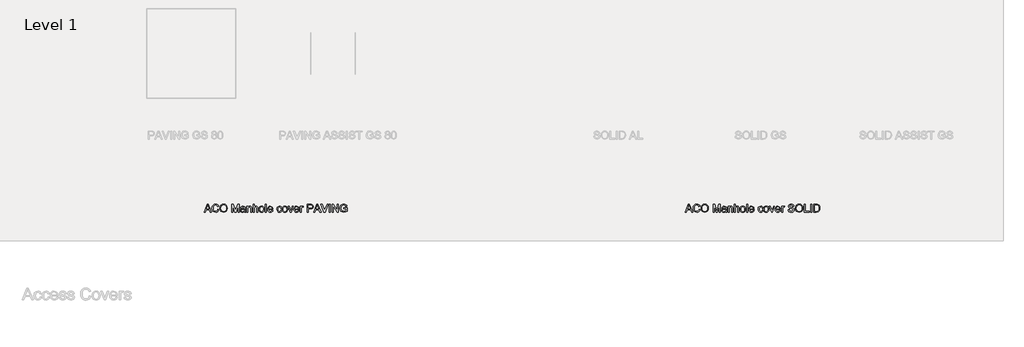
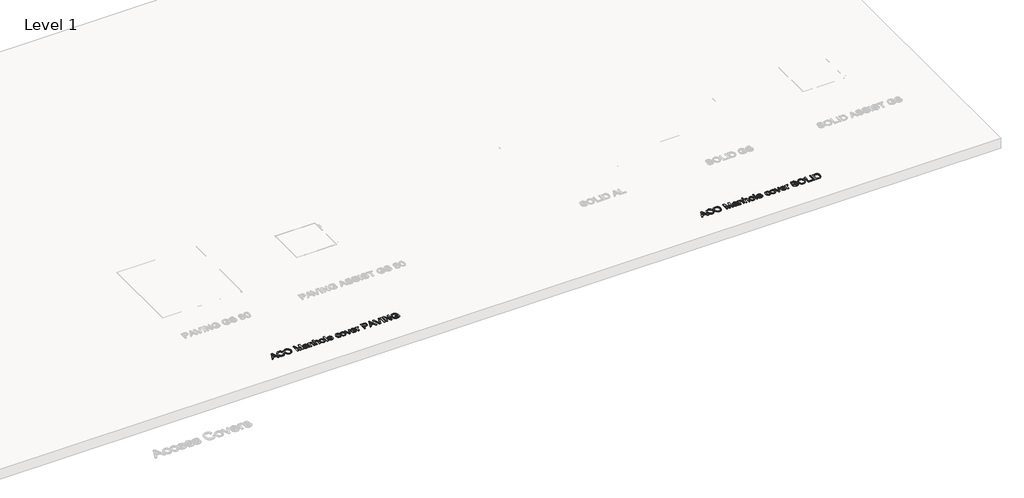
# One storey, part 2 of 9: 2 proxies.
"""IFC4 building model written with IfcOpenShell, lengths in millimetres."""

import ifcopenshell
import ifcopenshell.guid

model = None  # the IFC model being written
_history = None  # IfcOwnerHistory: only IFC2X3 demands one
_inside = {}  # id of a spatial element -> (the spatial element, [elements in it])
_under = {}  # id of a project, library or spatial element -> (it, [spatial elements below it])
_declared = {}  # id of a project -> (the project, [libraries it declares])
_typed = {}  # id of a type object -> (the type object, [elements of that type])
_made_of = {}  # id of a material, layer set ... -> (it, [elements and type objects made of it])


def new_model(schema):
    """Start an empty IFC model of exactly this schema.

    Asked for "IFC4X3", IfcOpenShell would pick the latest addendum, in which some entities
    have other attributes; the version numbers below select the first issue.
    IFC2X3 requires an IfcOwnerHistory on every rooted entity: one is made here for all.
    """
    global model, _history
    if schema == "IFC4X3":
        model = ifcopenshell.file(schema_version=(4, 3, 0, 0))
    else:
        model = ifcopenshell.file(schema=schema)
    _inside.clear()
    _under.clear()
    _declared.clear()
    _typed.clear()
    _made_of.clear()
    _history = None
    if model.schema == "IFC2X3":
        org = make("IfcOrganization", Name="unknown")
        user = make(
            "IfcPersonAndOrganization",
            ThePerson=make("IfcPerson", FamilyName="unknown"),
            TheOrganization=org,
        )
        app = make(
            "IfcApplication",
            ApplicationDeveloper=org,
            Version="unknown",
            ApplicationFullName="unknown",
            ApplicationIdentifier="unknown",
        )
        _history = make(
            "IfcOwnerHistory",
            OwningUser=user,
            OwningApplication=app,
            ChangeAction="ADDED",
            CreationDate=0,
        )
    return model


def make(cls, **values):
    """One entity of the class cls with the attributes given. An attribute that is None is left unset."""
    return model.create_entity(
        cls, **{name: value for name, value in values.items() if value is not None}
    )


def rooted(cls, **values):
    """An entity with a GlobalId (a new one), such as an element, a storey or a relation."""
    return make(cls, GlobalId=ifcopenshell.guid.new(), OwnerHistory=_history, **values)


def si_unit(unit_type, name, prefix=None):
    """IfcSIUnit, for example si_unit("LENGTHUNIT", "METRE", prefix="MILLI")."""
    return make("IfcSIUnit", UnitType=unit_type, Prefix=prefix, Name=name)


def assignment(units):
    """IfcUnitAssignment: the units of a project."""
    return None if units is None else make("IfcUnitAssignment", Units=units)


def point(xyz):
    """IfcCartesianPoint."""
    return None if xyz is None else make("IfcCartesianPoint", Coordinates=xyz)


def direction(xyz):
    """IfcDirection."""
    return None if xyz is None else make("IfcDirection", DirectionRatios=xyz)


def frame(location, z_axis=None, x_axis=None):
    """IfcAxis2Placement3D, a coordinate frame: its origin and axes. An axis left out is left unset."""
    return make(
        "IfcAxis2Placement3D",
        Location=point(location),
        Axis=direction(z_axis),
        RefDirection=direction(x_axis),
    )


def origin():
    """The frame at (0, 0, 0) with its axes left unset."""
    return frame((0.0, 0.0, 0.0))


def origin_with_axes():
    """The frame at (0, 0, 0) with the z axis (0, 0, 1) and the x axis (1, 0, 0) written out."""
    return frame((0.0, 0.0, 0.0), z_axis=(0.0, 0.0, 1.0), x_axis=(1.0, 0.0, 0.0))


def place(relative_to, where):
    """IfcLocalPlacement: puts the frame where relative to a parent placement (None: the world)."""
    return make(
        "IfcLocalPlacement", PlacementRelTo=relative_to, RelativePlacement=where
    )


def context(
    kind, dimensions, precision=None, world=None, true_north=None, identifier=None
):
    """IfcGeometricRepresentationContext, for example the 3D "Model" context."""
    return make(
        "IfcGeometricRepresentationContext",
        ContextIdentifier=identifier,
        ContextType=kind,
        CoordinateSpaceDimension=dimensions,
        Precision=precision,
        WorldCoordinateSystem=world,
        TrueNorth=true_north,
    )


def project(units=None, contexts=None):
    """IfcProject with its units and contexts."""
    return rooted(
        "IfcProject",
        Name="project",
        RepresentationContexts=contexts,
        UnitsInContext=assignment(units),
    )


def spatial(cls, under=None, at=None, **own):
    """A site, building, storey or space (cls), placed at a placement, below another one or the project."""
    s = rooted(cls, ObjectPlacement=at, **own)
    if under is not None:
        _under.setdefault(under.id(), (under, []))[1].append(s)
    return s


def polyline(points):
    """IfcPolyline through the points."""
    return make("IfcPolyline", Points=[point(p) for p in points])


def outline(outer, holes=None, kind="AREA"):
    """IfcArbitraryClosedProfileDef: a profile drawn as a closed curve; with holes, ...WithVoids."""
    if holes is None:
        return make("IfcArbitraryClosedProfileDef", ProfileType=kind, OuterCurve=outer)
    return make(
        "IfcArbitraryProfileDefWithVoids",
        ProfileType=kind,
        OuterCurve=outer,
        InnerCurves=holes,
    )


def extrude(swept, where, along, depth):
    """IfcExtrudedAreaSolid: the profile swept, set in the frame where, extruded along a direction by depth."""
    return make(
        "IfcExtrudedAreaSolid",
        SweptArea=swept,
        Position=where,
        ExtrudedDirection=direction(along),
        Depth=depth,
    )


def shape(context_of_items, identifier, shape_type, items):
    """IfcShapeRepresentation: the items that make up one representation, for example the "Body"."""
    return make(
        "IfcShapeRepresentation",
        ContextOfItems=context_of_items,
        RepresentationIdentifier=identifier,
        RepresentationType=shape_type,
        Items=items,
    )


def made_of(thing, what):
    """Note that an element or type object is made of a material, layer set ...; save() writes the relation."""
    if what is not None:
        _made_of.setdefault(what.id(), (what, []))[1].append(thing)
    return thing


def element(
    cls,
    number,
    at=None,
    inside=None,
    cuts=None,
    type_object=None,
    material=None,
    context=None,
    identifier="Body",
    shape_type=None,
    held_by="IfcProductDefinitionShape",
    body=None,
    shapes=None,
    **own,
):
    """One element of the class cls, such as IfcWall. Its Tag is "e" and its number.

    at: its placement. inside: the storey or other place that contains it. cuts: it is an
    opening in that element (IfcRelVoidsElement). A single representation is given by context,
    identifier, shape_type and body (its items); several are given by shapes. held_by: the class
    of the entity that holds the representations. save() writes the other relations.
    """
    e = rooted(cls, Tag="e%d" % number, ObjectPlacement=at, **own)
    if body is not None:
        shapes = [shape(context, identifier, shape_type, body)]
    if shapes is not None:
        e.Representation = make(held_by, Representations=shapes)
    if inside is not None:
        _inside.setdefault(inside.id(), (inside, []))[1].append(e)
    if cuts is not None:
        rooted(
            "IfcRelVoidsElement", RelatingBuildingElement=cuts, RelatedOpeningElement=e
        )
    if type_object is not None:
        _typed.setdefault(type_object.id(), (type_object, []))[1].append(e)
    return made_of(e, material)


def aggregate(whole, parts):
    """IfcRelAggregates: a whole, such as a stair, and the parts it consists of."""
    return rooted("IfcRelAggregates", RelatingObject=whole, RelatedObjects=parts)


def save(model, path):
    """Write the relations noted so far, then the file.

    IfcRelAggregates (storeys below a building ...), IfcRelContainedInSpatialStructure (elements
    in a storey), IfcRelDefinesByType, IfcRelAssociatesMaterial and IfcRelDeclares: one each for
    every whole, place, type object, material and project.
    """
    for whole, parts in _under.values():
        aggregate(whole, parts)
    for where, things in _inside.values():
        rooted(
            "IfcRelContainedInSpatialStructure",
            RelatedElements=things,
            RelatingStructure=where,
        )
    for kind, things in _typed.values():
        rooted("IfcRelDefinesByType", RelatedObjects=things, RelatingType=kind)
    for what, things in _made_of.values():
        rooted("IfcRelAssociatesMaterial", RelatedObjects=things, RelatingMaterial=what)
    for by, libraries in _declared.values():
        rooted("IfcRelDeclares", RelatingContext=by, RelatedDefinitions=libraries)
    model.write(path)


model = new_model("IFC4")

# Units and contexts
model_context = context("Model", 3, world=origin())
ifc_project = project(units=[si_unit("LENGTHUNIT", "METRE", prefix="MILLI")], contexts=[model_context])

# Site, building, storey
site = spatial("IfcSite", under=ifc_project)
building = spatial("IfcBuilding", under=site)
storey = spatial("IfcBuildingStorey", under=building, Name="Level 1", Elevation=0.0)

# Proxies
placement = place(None, origin())
element("IfcBuildingElementProxy", 1, Name="100mm ACO", ObjectType="100mm ACO", at=placement, inside=storey, context=model_context, shape_type="SweptSolid", body=[
    extrude(outline(polyline([(13654.5351282, -16737.8763634), (13640.6523737, -16737.8763634), (13628.6031906, -16708.0735529), (13585.9071721, -16708.0735529), (13574.3236578, -16737.8763634), (13560.4700077, -16737.8763634), (13599.5570921, -16637.2918781), (13613.8182026, -16637.2918781), (13654.5351282, -16737.8763634)]), holes=[polyline([(13624.0629187, -16696.897499), (13609.5544216, -16660.0223419), (13606.5712301, -16648.2933062), (13601.8854367, -16666.9782713), (13590.2728181, -16696.897499), (13624.0629187, -16696.897499)])]), origin_with_axes(), (0.0, 0.0, 1.0), 10.0),
    extrude(outline(polyline([(13749.0659176, -16705.8616256), (13743.1177249, -16720.7739449), (13733.9462301, -16731.3424465), (13722.089863, -16737.6398909), (13708.0870532, -16739.7390391), (13687.0591914, -16735.8608901), (13672.6380072, -16724.2264434), (13664.2996232, -16707.134939), (13661.5201619, -16686.8856174), (13664.7834823, -16665.3738964), (13674.5734436, -16649.0936746), (13689.4930391, -16638.8453205), (13708.1452619, -16635.4292024), (13721.5368812, -16637.2518597), (13732.8402664, -16642.7198314), (13741.5606444, -16651.7021481), (13747.203242, -16664.0678406), (13734.1645124, -16667.0946885), (13724.2544958, -16651.7421666), (13707.6504886, -16646.6052563), (13693.3457217, -16649.3301471), (13682.9700362, -16657.5048194), (13676.6616777, -16670.26342), (13674.5588915, -16686.7400958), (13676.785371, -16705.2104167), (13683.4648094, -16718.2455083), (13693.7240777, -16725.9836159), (13706.6900465, -16728.5629851), (13717.3203947, -16726.936782), (13725.7533677, -16722.0581725), (13731.9889655, -16713.9126045), (13736.0271881, -16702.485526), (13749.0659176, -16705.8616256)])), origin_with_axes(), (0.0, 0.0, 1.0), 10.0),
    extrude(outline(polyline([(13808.7588515, -16635.4292024), (13827.3565037, -16639.0235844), (13842.2288046, -16649.8067301), (13851.9860236, -16666.476222), (13855.2384299, -16687.7296423), (13851.9678334, -16708.8921116), (13842.1560439, -16725.4633764), (13827.2655528, -16736.1701234), (13808.7588515, -16739.7390391), (13789.7755672, -16736.039154), (13774.9105423, -16724.9394989), (13765.306121, -16708.5137556), (13762.1046472, -16688.8356059), (13765.3497775, -16666.6253816), (13775.0851682, -16649.7048651), (13789.9938495, -16638.9981181), (13808.7588515, -16635.4292024)]), holes=[polyline([(13808.6424343, -16728.5629851), (13822.1613849, -16725.8635606), (13832.8572178, -16717.7652872), (13839.8349754, -16704.857527), (13842.1997003, -16687.7296423), (13839.8313374, -16670.2197635), (13832.7262484, -16657.2719849), (13822.0340536, -16649.2719385), (13808.904373, -16646.6052563), (13795.4800114, -16649.2173679), (13784.6604852, -16657.0537026), (13777.5226539, -16670.2888862), (13775.1433768, -16689.0975447), (13777.4717214, -16705.0721713), (13784.4567551, -16717.6634221), (13795.159864, -16725.8380944), (13808.6424343, -16728.5629851)])]), origin_with_axes(), (0.0, 0.0, 1.0), 10.0),
    extrude(outline(polyline([(14006.1151579, -16737.8763634), (13993.0764283, -16737.8763634), (13993.0764283, -16653.5902901), (13967.4064295, -16737.8763634), (13953.5527793, -16737.8763634), (13926.3984608, -16652.2223876), (13926.0201048, -16737.8763634), (13912.9813752, -16737.8763634), (13912.9813752, -16637.2918781), (13932.8014083, -16637.2918781), (13955.7647066, -16708.5683262), (13960.2176656, -16723.4697314), (13965.2527107, -16707.3459453), (13986.7316894, -16637.2918781), (14006.1151579, -16637.2918781), (14006.1151579, -16737.8763634)])), origin_with_axes(), (0.0, 0.0, 1.0), 10.0),
    extrude(outline(polyline([(14089.9355623, -16737.8763634), (14076.8968328, -16737.8763634), (14073.1714814, -16729.0868627), (14060.6056969, -16737.075995), (14047.064918, -16739.7390391), (14037.020294, -16738.2838237), (14029.3549471, -16733.9181776), (14024.4981659, -16727.1659784), (14022.8792388, -16718.5511035), (14024.4654235, -16710.1945293), (14029.2239777, -16703.4605203), (14037.9043373, -16698.5382543), (14051.2559382, -16695.6169095), (14062.6648266, -16693.8706511), (14073.1714814, -16691.309472), (14072.8367819, -16683.2330268), (14070.8867933, -16678.3289511), (14065.6916745, -16674.2397959), (14056.0581489, -16672.6827155), (14043.9071007, -16675.8405328), (14037.780644, -16687.5841207), (14024.7419144, -16685.9833838), (14028.3181062, -16676.1170237), (14035.030287, -16669.0446771), (14044.8711808, -16664.7881722), (14057.8335116, -16663.3693372), (14077.202428, -16667.2547622), (14084.7986521, -16676.6263491), (14086.210211, -16690.7564902), (14086.210211, -16707.3750496), (14086.7631929, -16727.7480645), (14089.9355623, -16737.8763634)]), holes=[polyline([(14073.1714814, -16705.2795395), (14073.1714814, -16700.6228503), (14049.7570664, -16705.9780428), (14039.3777429, -16710.0599219), (14035.9179684, -16718.3473733), (14039.6433197, -16727.0204569), (14050.382809, -16730.4256608), (14066.2883128, -16724.7212166), (14071.4506893, -16717.0085752), (14073.1714814, -16705.2795395)])]), origin_with_axes(), (0.0, 0.0, 1.0), 10.0),
    extrude(outline(polyline([(14164.4425885, -16737.8763634), (14151.4038589, -16737.8763634), (14151.4038589, -16692.6482702), (14147.5184339, -16676.9610486), (14136.7061838, -16672.6827155), (14126.6215414, -16675.4185204), (14119.8693422, -16683.1311618), (14117.8756971, -16697.2176464), (14117.8756971, -16737.8763634), (14104.8369676, -16737.8763634), (14104.8369676, -16665.2320129), (14116.0130215, -16665.2320129), (14116.0130215, -16675.3312075), (14125.9666945, -16666.3525287), (14139.2964672, -16663.3693372), (14150.7344599, -16665.435743), (14159.5821692, -16671.6204083), (14163.6131157, -16680.409909), (14164.4425885, -16693.0266262), (14164.4425885, -16737.8763634)])), origin_with_axes(), (0.0, 0.0, 1.0), 10.0),
    extrude(outline(polyline([(14242.674966, -16737.8763634), (14229.6362364, -16737.8763634), (14229.6362364, -16690.9020117), (14225.9254372, -16677.2375396), (14214.8512484, -16672.6827155), (14201.8416231, -16678.0524602), (14197.5414617, -16685.528629), (14196.1080746, -16697.2176464), (14196.1080746, -16737.8763634), (14183.069345, -16737.8763634), (14183.069345, -16637.2918781), (14196.1080746, -16637.2918781), (14196.1080746, -16673.3230103), (14205.8652936, -16665.8577555), (14217.7907834, -16663.3693372), (14231.1496604, -16666.2506636), (14240.0992348, -16675.1129251), (14242.674966, -16691.7169323), (14242.674966, -16737.8763634)])), origin_with_axes(), (0.0, 0.0, 1.0), 10.0),
    extrude(outline(polyline([(14291.0754287, -16663.3693372), (14304.3288025, -16665.7777186), (14315.1010342, -16673.0028629), (14322.2497796, -16684.666414), (14324.6326947, -16700.3900159), (14322.0533255, -16718.7693858), (14314.3152179, -16730.8331211), (14303.3465321, -16737.5125596), (14291.0754287, -16739.7390391), (14278.411417, -16737.4507129), (14267.5445964, -16730.5857345), (14260.0684275, -16718.7511956), (14257.5763712, -16701.5541881), (14259.9847526, -16684.7391747), (14267.2098968, -16672.828237), (14277.9930426, -16665.7340622), (14291.0754287, -16663.3693372)]), holes=[polyline([(14291.0754287, -16730.4256608), (14299.9340521, -16728.4065495), (14306.369742, -16722.3492156), (14311.5939652, -16701.0885192), (14310.1169216, -16688.7337409), (14305.6857908, -16679.8423751), (14299.0791131, -16674.4726304), (14291.0754287, -16672.6827155), (14282.9153086, -16674.4980967), (14276.3632014, -16679.9442401), (14272.0521259, -16688.9847655), (14270.6151008, -16701.5832925), (14272.0775922, -16714.1381629), (14276.4650665, -16723.1641362), (14283.0426399, -16728.6102796), (14291.0754287, -16730.4256608)])]), origin_with_axes(), (0.0, 0.0, 1.0), 10.0),
    extrude(outline(polyline([(14352.5728296, -16737.8763634), (14339.5341, -16737.8763634), (14339.5341, -16637.2918781), (14352.5728296, -16637.2918781), (14352.5728296, -16737.8763634)])), origin_with_axes(), (0.0, 0.0, 1.0), 10.0),
    extrude(outline(polyline([(14434.5305583, -16704.3482016), (14380.5129644, -16704.3482016), (14382.5975604, -16715.5388077), (14387.3379244, -16723.7316701), (14394.1592464, -16728.7521631), (14402.4867162, -16730.4256608), (14414.2303041, -16726.7148616), (14421.4918288, -16715.5242555), (14434.5305583, -16717.0376795), (14430.1285319, -16726.7148616), (14423.1507743, -16733.859969), (14413.8519481, -16738.2692715), (14402.4867162, -16739.7390391), (14387.8145074, -16737.2178784), (14376.7439566, -16729.6543966), (14369.7916652, -16717.7252688), (14367.4742348, -16702.10717), (14369.7079904, -16686.4781571), (14376.4092571, -16674.1088266), (14387.1705746, -16666.0542096), (14401.5844827, -16663.3693372), (14416.8933482, -16666.8473019), (14429.3936481, -16678.6927549), (14433.2463308, -16689.2903607), (14434.5305583, -16704.3482016)]), holes=[polyline([(14421.4918288, -16695.0348234), (14419.3963186, -16684.8192116), (14414.6232123, -16677.9214908), (14401.2643353, -16672.6827155), (14393.3625159, -16674.2397959), (14387.0032248, -16678.9110372), (14380.5129644, -16695.0348234), (14421.4918288, -16695.0348234)])]), origin_with_axes(), (0.0, 0.0, 1.0), 10.0),
    extrude(outline(polyline([(14550.0164489, -16713.2832239), (14545.9636741, -16725.1577812), (14538.753082, -16733.3651958), (14529.3742191, -16738.1455782), (14518.8166317, -16739.7390391), (14504.4172757, -16737.1342036), (14493.6996147, -16729.3196971), (14487.0420044, -16717.2050293), (14484.822801, -16701.6997097), (14489.8869504, -16678.8819329), (14502.5618762, -16666.8473019), (14518.5546929, -16663.3693372), (14529.1668509, -16664.7918102), (14538.1273394, -16669.0592293), (14544.7012748, -16676.0842814), (14548.1537732, -16685.7796537), (14535.1150437, -16687.5841207), (14529.177765, -16676.422619), (14518.7002145, -16672.6827155), (14509.6924314, -16674.5781335), (14503.1585145, -16680.2643875), (14499.1857765, -16689.3485694), (14497.8615306, -16701.4377709), (14499.1894146, -16713.7379787), (14503.1730666, -16722.8730931), (14509.6596891, -16728.5375189), (14518.4964843, -16730.4256608), (14531.17141, -16725.7689716), (14536.9777193, -16711.7989042), (14550.0164489, -16713.2832239)])), origin_with_axes(), (0.0, 0.0, 1.0), 10.0),
    extrude(outline(polyline([(14587.2408577, -16663.3693372), (14600.4942315, -16665.7777186), (14611.2664632, -16673.0028629), (14618.4152086, -16684.666414), (14620.7981237, -16700.3900159), (14618.2187545, -16718.7693858), (14610.4806469, -16730.8331211), (14599.5119611, -16737.5125596), (14587.2408577, -16739.7390391), (14574.576846, -16737.4507129), (14563.7100254, -16730.5857345), (14556.2338565, -16718.7511956), (14553.7418002, -16701.5541881), (14556.1501816, -16684.7391747), (14563.3753258, -16672.828237), (14574.1584716, -16665.7340622), (14587.2408577, -16663.3693372)]), holes=[polyline([(14587.2408577, -16730.4256608), (14596.0994811, -16728.4065495), (14602.535171, -16722.3492156), (14607.7593942, -16701.0885192), (14606.2823506, -16688.7337409), (14601.8512198, -16679.8423751), (14595.2445421, -16674.4726304), (14587.2408577, -16672.6827155), (14579.0807376, -16674.4980967), (14572.5286304, -16679.9442401), (14568.2175549, -16688.9847655), (14566.7805298, -16701.5832925), (14568.2430212, -16714.1381629), (14572.6304955, -16723.1641362), (14579.2080689, -16728.6102796), (14587.2408577, -16730.4256608)])]), origin_with_axes(), (0.0, 0.0, 1.0), 10.0),
    extrude(outline(polyline([(14693.4424742, -16665.2320129), (14667.452328, -16737.8763634), (14656.2471698, -16737.8763634), (14628.2488264, -16665.2320129), (14640.0069664, -16665.2320129), (14655.5777707, -16707.2877366), (14660.8456503, -16723.4697314), (14664.891149, -16711.682487), (14681.6843342, -16665.2320129), (14693.4424742, -16665.2320129)])), origin_with_axes(), (0.0, 0.0, 1.0), 10.0),
    extrude(outline(polyline([(14767.9495004, -16704.3482016), (14713.9319064, -16704.3482016), (14716.0165024, -16715.5388077), (14720.7568665, -16723.7316701), (14727.5781884, -16728.7521631), (14735.9056583, -16730.4256608), (14747.6492462, -16726.7148616), (14754.9107708, -16715.5242555), (14767.9495004, -16717.0376795), (14763.547474, -16726.7148616), (14756.5697163, -16733.859969), (14747.2708902, -16738.2692715), (14735.9056583, -16739.7390391), (14721.2334495, -16737.2178784), (14710.1628987, -16729.6543966), (14703.2106073, -16717.7252688), (14700.8931769, -16702.10717), (14703.1269324, -16686.4781571), (14709.8281991, -16674.1088266), (14720.5895167, -16666.0542096), (14735.0034248, -16663.3693372), (14750.3122903, -16666.8473019), (14762.8125902, -16678.6927549), (14766.6652729, -16689.2903607), (14767.9495004, -16704.3482016)]), holes=[polyline([(14754.9107708, -16695.0348234), (14752.8152607, -16684.8192116), (14748.0421544, -16677.9214908), (14734.6832774, -16672.6827155), (14726.781458, -16674.2397959), (14720.4221669, -16678.9110372), (14713.9319064, -16695.0348234), (14754.9107708, -16695.0348234)])]), origin_with_axes(), (0.0, 0.0, 1.0), 10.0),
    extrude(outline(polyline([(14821.9670944, -16666.2215593), (14817.8924914, -16674.5453912), (14809.3358251, -16672.6827155), (14803.5076876, -16674.3198328), (14799.2948392, -16679.2311846), (14795.8896352, -16697.5668981), (14795.8896352, -16737.8763634), (14782.8509056, -16737.8763634), (14782.8509056, -16665.2320129), (14794.0269596, -16665.2320129), (14794.0269596, -16676.0006065), (14800.9974411, -16666.5271546), (14809.4813466, -16663.3693372), (14821.9670944, -16666.2215593)])), origin_with_axes(), (0.0, 0.0, 1.0), 10.0),
    extrude(outline(polyline([(14870.3966614, -16637.2918781), (14908.174052, -16637.2918781), (14923.5702304, -16638.1795594), (14935.561205, -16642.7925921), (14943.9286933, -16652.9063388), (14946.7663632, -16666.2797679), (14944.5289696, -16678.7837059), (14937.8167888, -16688.5300107), (14926.1714279, -16694.8056269), (14909.1344941, -16696.897499), (14883.435391, -16696.897499), (14883.435391, -16737.8763634), (14870.3966614, -16737.8763634), (14870.3966614, -16637.2918781)]), holes=[polyline([(14883.435391, -16685.7214451), (14909.6583717, -16685.7214451), (14927.7103181, -16680.9556148), (14932.2233047, -16674.9983269), (14933.7276336, -16666.6581239), (14930.5989206, -16655.6130394), (14922.9153835, -16649.6466564), (14909.3673286, -16648.467932), (14883.435391, -16648.467932), (14883.435391, -16685.7214451)])]), origin_with_axes(), (0.0, 0.0, 1.0), 10.0),
    extrude(outline(polyline([(15045.9538418, -16737.8763634), (15032.0710873, -16737.8763634), (15020.0219042, -16708.0735529), (14977.3258856, -16708.0735529), (14965.7423714, -16737.8763634), (14951.8887212, -16737.8763634), (14990.9758057, -16637.2918781), (15005.2369162, -16637.2918781), (15045.9538418, -16737.8763634)]), holes=[polyline([(15015.4816323, -16696.897499), (15000.9731352, -16660.0223419), (14997.9899437, -16648.2933062), (14993.3041502, -16666.9782713), (14981.6915317, -16696.897499), (15015.4816323, -16696.897499)])]), origin_with_axes(), (0.0, 0.0, 1.0), 10.0),
    extrude(outline(polyline([(15136.7592799, -16637.2918781), (15099.0400979, -16737.8763634), (15083.2073549, -16737.8763634), (15045.4881729, -16637.2918781), (15059.3127187, -16637.2918781), (15085.8267425, -16710.4018975), (15091.1237264, -16726.8167267), (15096.4498146, -16710.4018975), (15122.934734, -16637.2918781), (15136.7592799, -16637.2918781)])), origin_with_axes(), (0.0, 0.0, 1.0), 10.0),
    extrude(outline(polyline([(15164.6994147, -16737.8763634), (15151.6606851, -16737.8763634), (15151.6606851, -16637.2918781), (15164.6994147, -16637.2918781), (15164.6994147, -16737.8763634)])), origin_with_axes(), (0.0, 0.0, 1.0), 10.0),
    extrude(outline(polyline([(15267.1465757, -16737.8763634), (15253.1765083, -16737.8763634), (15202.2148666, -16659.178317), (15202.2148666, -16737.8763634), (15188.9141982, -16737.8763634), (15188.9141982, -16637.2918781), (15202.9133699, -16637.2918781), (15253.8459074, -16715.9317158), (15253.8459074, -16637.2918781), (15267.1465757, -16637.2918781), (15267.1465757, -16737.8763634)])), origin_with_axes(), (0.0, 0.0, 1.0), 10.0),
    extrude(outline(polyline([(15377.0444393, -16724.4592778), (15357.5227253, -16735.9190987), (15336.269305, -16739.7390391), (15315.7689587, -16736.2028657), (15299.6706389, -16725.5943458), (15289.2476589, -16709.121308), (15285.7733322, -16687.991581), (15291.43412, -16661.3320357), (15298.4373439, -16650.3815402), (15308.1254401, -16642.210506), (15320.3856295, -16637.1245283), (15335.1051328, -16635.4292024), (15350.0283662, -16637.3137063), (15361.6773651, -16642.967218), (15370.0594056, -16652.3824613), (15375.1817636, -16665.5521603), (15362.1430341, -16668.9573642), (15358.3631122, -16659.1965072), (15352.4367476, -16652.2078355), (15344.3639405, -16648.0059011), (15334.1446906, -16646.6052563), (15318.7958067, -16649.4283741), (15307.7325319, -16657.8977275), (15301.0421793, -16670.9364571), (15298.8120618, -16687.4677035), (15303.2213643, -16710.2127195), (15316.3037504, -16723.9208481), (15335.1633414, -16728.5629851), (15350.1156791, -16725.7398673), (15364.0057097, -16717.270514), (15364.0057097, -16696.897499), (15334.2028992, -16696.897499), (15334.2028992, -16685.7214451), (15377.0444393, -16685.7214451), (15377.0444393, -16724.4592778)])), origin_with_axes(), (0.0, 0.0, 1.0), 10.0),
])
element("IfcBuildingElementProxy", 2, Name="100mm ACO", ObjectType="100mm ACO", at=placement, inside=storey, context=model_context, shape_type="SweptSolid", body=[
    extrude(outline(polyline([(19765.6458589, -16737.8763634), (19751.7631044, -16737.8763634), (19739.7139213, -16708.0735529), (19697.0179028, -16708.0735529), (19685.4343885, -16737.8763634), (19671.5807384, -16737.8763634), (19710.6678228, -16637.2918781), (19724.9289333, -16637.2918781), (19765.6458589, -16737.8763634)]), holes=[polyline([(19735.1736494, -16696.897499), (19720.6651523, -16660.0223419), (19717.6819608, -16648.2933062), (19712.9961674, -16666.9782713), (19701.3835488, -16696.897499), (19735.1736494, -16696.897499)])]), origin_with_axes(), (0.0, 0.0, 1.0), 10.0),
    extrude(outline(polyline([(19860.1766483, -16705.8616256), (19854.2284556, -16720.7739449), (19845.0569608, -16731.3424465), (19833.2005937, -16737.6398909), (19819.1977839, -16739.7390391), (19798.1699221, -16735.8608901), (19783.7487379, -16724.2264434), (19775.4103539, -16707.134939), (19772.6308926, -16686.8856174), (19775.894213, -16665.3738964), (19785.6841743, -16649.0936746), (19800.6037697, -16638.8453205), (19819.2559926, -16635.4292024), (19832.6476119, -16637.2518597), (19843.9509971, -16642.7198314), (19852.6713751, -16651.7021481), (19858.3139727, -16664.0678406), (19845.2752431, -16667.0946885), (19835.3652265, -16651.7421666), (19818.7612193, -16646.6052563), (19804.4564524, -16649.3301471), (19794.0807669, -16657.5048194), (19787.7724084, -16670.26342), (19785.6696222, -16686.7400958), (19787.8961017, -16705.2104167), (19794.5755401, -16718.2455083), (19804.8348084, -16725.9836159), (19817.8007772, -16728.5629851), (19828.4311254, -16726.936782), (19836.8640983, -16722.0581725), (19843.0996961, -16713.9126045), (19847.1379188, -16702.485526), (19860.1766483, -16705.8616256)])), origin_with_axes(), (0.0, 0.0, 1.0), 10.0),
    extrude(outline(polyline([(19919.8695822, -16635.4292024), (19938.4672344, -16639.0235844), (19953.3395353, -16649.8067301), (19963.0967543, -16666.476222), (19966.3491606, -16687.7296423), (19963.0785641, -16708.8921116), (19953.2667746, -16725.4633764), (19938.3762835, -16736.1701234), (19919.8695822, -16739.7390391), (19900.8862979, -16736.039154), (19886.021273, -16724.9394989), (19876.4168517, -16708.5137556), (19873.2153779, -16688.8356059), (19876.4605081, -16666.6253816), (19886.1958989, -16649.7048651), (19901.1045802, -16638.9981181), (19919.8695822, -16635.4292024)]), holes=[polyline([(19919.753165, -16728.5629851), (19933.2721156, -16725.8635606), (19943.9679485, -16717.7652872), (19950.9457061, -16704.857527), (19953.310431, -16687.7296423), (19950.942068, -16670.2197635), (19943.8369791, -16657.2719849), (19933.1447843, -16649.2719385), (19920.0151037, -16646.6052563), (19906.5907421, -16649.2173679), (19895.7712159, -16657.0537026), (19888.6333846, -16670.2888862), (19886.2541075, -16689.0975447), (19888.5824521, -16705.0721713), (19895.5674858, -16717.6634221), (19906.2705947, -16725.8380944), (19919.753165, -16728.5629851)])]), origin_with_axes(), (0.0, 0.0, 1.0), 10.0),
    extrude(outline(polyline([(20117.2258886, -16737.8763634), (20104.187159, -16737.8763634), (20104.187159, -16653.5902901), (20078.5171602, -16737.8763634), (20064.66351, -16737.8763634), (20037.5091915, -16652.2223876), (20037.1308355, -16737.8763634), (20024.0921059, -16737.8763634), (20024.0921059, -16637.2918781), (20043.912139, -16637.2918781), (20066.8754373, -16708.5683262), (20071.3283963, -16723.4697314), (20076.3634414, -16707.3459453), (20097.8424201, -16637.2918781), (20117.2258886, -16637.2918781), (20117.2258886, -16737.8763634)])), origin_with_axes(), (0.0, 0.0, 1.0), 10.0),
    extrude(outline(polyline([(20201.046293, -16737.8763634), (20188.0075634, -16737.8763634), (20184.2822121, -16729.0868627), (20171.7164275, -16737.075995), (20158.1756487, -16739.7390391), (20148.1310247, -16738.2838237), (20140.4656778, -16733.9181776), (20135.6088966, -16727.1659784), (20133.9899695, -16718.5511035), (20135.5761542, -16710.1945293), (20140.3347084, -16703.4605203), (20149.015068, -16698.5382543), (20162.3666689, -16695.6169095), (20173.7755573, -16693.8706511), (20184.2822121, -16691.309472), (20183.9475126, -16683.2330268), (20181.997524, -16678.3289511), (20176.8024052, -16674.2397959), (20167.1688796, -16672.6827155), (20155.0178314, -16675.8405328), (20148.8913747, -16687.5841207), (20135.8526451, -16685.9833838), (20139.4288369, -16676.1170237), (20146.1410177, -16669.0446771), (20155.9819115, -16664.7881722), (20168.9442423, -16663.3693372), (20188.3131587, -16667.2547622), (20195.9093828, -16676.6263491), (20197.3209417, -16690.7564902), (20197.3209417, -16707.3750496), (20197.8739235, -16727.7480645), (20201.046293, -16737.8763634)]), holes=[polyline([(20184.2822121, -16705.2795395), (20184.2822121, -16700.6228503), (20160.8677971, -16705.9780428), (20150.4884736, -16710.0599219), (20147.0286991, -16718.3473733), (20150.7540504, -16727.0204569), (20161.4935397, -16730.4256608), (20177.3990435, -16724.7212166), (20182.56142, -16717.0085752), (20184.2822121, -16705.2795395)])]), origin_with_axes(), (0.0, 0.0, 1.0), 10.0),
    extrude(outline(polyline([(20275.5533192, -16737.8763634), (20262.5145896, -16737.8763634), (20262.5145896, -16692.6482702), (20258.6291646, -16676.9610486), (20247.8169145, -16672.6827155), (20237.7322721, -16675.4185204), (20230.9800729, -16683.1311618), (20228.9864278, -16697.2176464), (20228.9864278, -16737.8763634), (20215.9476983, -16737.8763634), (20215.9476983, -16665.2320129), (20227.1237522, -16665.2320129), (20227.1237522, -16675.3312075), (20237.0774252, -16666.3525287), (20250.4071979, -16663.3693372), (20261.8451905, -16665.435743), (20270.6928999, -16671.6204083), (20274.7238464, -16680.409909), (20275.5533192, -16693.0266262), (20275.5533192, -16737.8763634)])), origin_with_axes(), (0.0, 0.0, 1.0), 10.0),
    extrude(outline(polyline([(20353.7856967, -16737.8763634), (20340.7469671, -16737.8763634), (20340.7469671, -16690.9020117), (20337.0361679, -16677.2375396), (20325.9619791, -16672.6827155), (20312.9523538, -16678.0524602), (20308.6521924, -16685.528629), (20307.2188053, -16697.2176464), (20307.2188053, -16737.8763634), (20294.1800757, -16737.8763634), (20294.1800757, -16637.2918781), (20307.2188053, -16637.2918781), (20307.2188053, -16673.3230103), (20316.9760243, -16665.8577555), (20328.9015141, -16663.3693372), (20342.260391, -16666.2506636), (20351.2099655, -16675.1129251), (20353.7856967, -16691.7169323), (20353.7856967, -16737.8763634)])), origin_with_axes(), (0.0, 0.0, 1.0), 10.0),
    extrude(outline(polyline([(20402.1861594, -16663.3693372), (20415.4395332, -16665.7777186), (20426.2117649, -16673.0028629), (20433.3605103, -16684.666414), (20435.7434254, -16700.3900159), (20433.1640562, -16718.7693858), (20425.4259486, -16730.8331211), (20414.4572628, -16737.5125596), (20402.1861594, -16739.7390391), (20389.5221477, -16737.4507129), (20378.6553271, -16730.5857345), (20371.1791582, -16718.7511956), (20368.6871019, -16701.5541881), (20371.0954833, -16684.7391747), (20378.3206275, -16672.828237), (20389.1037733, -16665.7340622), (20402.1861594, -16663.3693372)]), holes=[polyline([(20402.1861594, -16730.4256608), (20411.0447828, -16728.4065495), (20417.4804727, -16722.3492156), (20422.7046959, -16701.0885192), (20421.2276523, -16688.7337409), (20416.7965215, -16679.8423751), (20410.1898438, -16674.4726304), (20402.1861594, -16672.6827155), (20394.0260393, -16674.4980967), (20387.4739321, -16679.9442401), (20383.1628566, -16688.9847655), (20381.7258315, -16701.5832925), (20383.1883229, -16714.1381629), (20387.5757972, -16723.1641362), (20394.1533706, -16728.6102796), (20402.1861594, -16730.4256608)])]), origin_with_axes(), (0.0, 0.0, 1.0), 10.0),
    extrude(outline(polyline([(20463.6835602, -16737.8763634), (20450.6448307, -16737.8763634), (20450.6448307, -16637.2918781), (20463.6835602, -16637.2918781), (20463.6835602, -16737.8763634)])), origin_with_axes(), (0.0, 0.0, 1.0), 10.0),
    extrude(outline(polyline([(20545.641289, -16704.3482016), (20491.6236951, -16704.3482016), (20493.7082911, -16715.5388077), (20498.4486551, -16723.7316701), (20505.269977, -16728.7521631), (20513.5974469, -16730.4256608), (20525.3410348, -16726.7148616), (20532.6025594, -16715.5242555), (20545.641289, -16717.0376795), (20541.2392626, -16726.7148616), (20534.261505, -16733.859969), (20524.9626788, -16738.2692715), (20513.5974469, -16739.7390391), (20498.9252381, -16737.2178784), (20487.8546873, -16729.6543966), (20480.9023959, -16717.7252688), (20478.5849655, -16702.10717), (20480.818721, -16686.4781571), (20487.5199878, -16674.1088266), (20498.2813053, -16666.0542096), (20512.6952134, -16663.3693372), (20528.0040789, -16666.8473019), (20540.5043788, -16678.6927549), (20544.3570615, -16689.2903607), (20545.641289, -16704.3482016)]), holes=[polyline([(20532.6025594, -16695.0348234), (20530.5070493, -16684.8192116), (20525.733943, -16677.9214908), (20512.375066, -16672.6827155), (20504.4732466, -16674.2397959), (20498.1139555, -16678.9110372), (20491.6236951, -16695.0348234), (20532.6025594, -16695.0348234)])]), origin_with_axes(), (0.0, 0.0, 1.0), 10.0),
    extrude(outline(polyline([(20661.1271796, -16713.2832239), (20657.0744048, -16725.1577812), (20649.8638127, -16733.3651958), (20640.4849498, -16738.1455782), (20629.9273624, -16739.7390391), (20615.5280064, -16737.1342036), (20604.8103453, -16729.3196971), (20598.1527351, -16717.2050293), (20595.9335317, -16701.6997097), (20600.9976811, -16678.8819329), (20613.6726069, -16666.8473019), (20629.6654236, -16663.3693372), (20640.2775816, -16664.7918102), (20649.2380701, -16669.0592293), (20655.8120055, -16676.0842814), (20659.2645039, -16685.7796537), (20646.2257743, -16687.5841207), (20640.2884957, -16676.422619), (20629.8109451, -16672.6827155), (20620.8031621, -16674.5781335), (20614.2692452, -16680.2643875), (20610.2965072, -16689.3485694), (20608.9722613, -16701.4377709), (20610.3001453, -16713.7379787), (20614.2837973, -16722.8730931), (20620.7704198, -16728.5375189), (20629.607215, -16730.4256608), (20642.2821407, -16725.7689716), (20648.08845, -16711.7989042), (20661.1271796, -16713.2832239)])), origin_with_axes(), (0.0, 0.0, 1.0), 10.0),
    extrude(outline(polyline([(20698.3515883, -16663.3693372), (20711.6049622, -16665.7777186), (20722.3771939, -16673.0028629), (20729.5259393, -16684.666414), (20731.9088544, -16700.3900159), (20729.3294852, -16718.7693858), (20721.5913776, -16730.8331211), (20710.6226918, -16737.5125596), (20698.3515883, -16739.7390391), (20685.6875767, -16737.4507129), (20674.8207561, -16730.5857345), (20667.3445872, -16718.7511956), (20664.8525309, -16701.5541881), (20667.2609123, -16684.7391747), (20674.4860565, -16672.828237), (20685.2692023, -16665.7340622), (20698.3515883, -16663.3693372)]), holes=[polyline([(20698.3515883, -16730.4256608), (20707.2102118, -16728.4065495), (20713.6459017, -16722.3492156), (20718.8701249, -16701.0885192), (20717.3930813, -16688.7337409), (20712.9619505, -16679.8423751), (20706.3552728, -16674.4726304), (20698.3515883, -16672.6827155), (20690.1914682, -16674.4980967), (20683.6393611, -16679.9442401), (20679.3282856, -16688.9847655), (20677.8912605, -16701.5832925), (20679.3537519, -16714.1381629), (20683.7412262, -16723.1641362), (20690.3187996, -16728.6102796), (20698.3515883, -16730.4256608)])]), origin_with_axes(), (0.0, 0.0, 1.0), 10.0),
    extrude(outline(polyline([(20804.5532049, -16665.2320129), (20778.5630587, -16737.8763634), (20767.3579005, -16737.8763634), (20739.359557, -16665.2320129), (20751.1176971, -16665.2320129), (20766.6885014, -16707.2877366), (20771.956381, -16723.4697314), (20776.0018797, -16711.682487), (20792.7950649, -16665.2320129), (20804.5532049, -16665.2320129)])), origin_with_axes(), (0.0, 0.0, 1.0), 10.0),
    extrude(outline(polyline([(20879.0602311, -16704.3482016), (20825.0426371, -16704.3482016), (20827.1272331, -16715.5388077), (20831.8675971, -16723.7316701), (20838.6889191, -16728.7521631), (20847.016389, -16730.4256608), (20858.7599769, -16726.7148616), (20866.0215015, -16715.5242555), (20879.0602311, -16717.0376795), (20874.6582047, -16726.7148616), (20867.680447, -16733.859969), (20858.3816209, -16738.2692715), (20847.016389, -16739.7390391), (20832.3441802, -16737.2178784), (20821.2736294, -16729.6543966), (20814.321338, -16717.7252688), (20812.0039076, -16702.10717), (20814.2376631, -16686.4781571), (20820.9389298, -16674.1088266), (20831.7002474, -16666.0542096), (20846.1141555, -16663.3693372), (20861.423021, -16666.8473019), (20873.9233209, -16678.6927549), (20877.7760036, -16689.2903607), (20879.0602311, -16704.3482016)]), holes=[polyline([(20866.0215015, -16695.0348234), (20863.9259914, -16684.8192116), (20859.152885, -16677.9214908), (20845.7940081, -16672.6827155), (20837.8921887, -16674.2397959), (20831.5328976, -16678.9110372), (20825.0426371, -16695.0348234), (20866.0215015, -16695.0348234)])]), origin_with_axes(), (0.0, 0.0, 1.0), 10.0),
    extrude(outline(polyline([(20933.0778251, -16666.2215593), (20929.0032221, -16674.5453912), (20920.4465558, -16672.6827155), (20914.6184183, -16674.3198328), (20910.4055698, -16679.2311846), (20907.0003659, -16697.5668981), (20907.0003659, -16737.8763634), (20893.9616363, -16737.8763634), (20893.9616363, -16665.2320129), (20905.1376903, -16665.2320129), (20905.1376903, -16676.0006065), (20912.1081718, -16666.5271546), (20920.5920773, -16663.3693372), (20933.0778251, -16666.2215593)])), origin_with_axes(), (0.0, 0.0, 1.0), 10.0),
    extrude(outline(polyline([(21039.2503374, -16667.0946885), (21037.227588, -16658.1487522), (21032.7309726, -16651.7421666), (21025.760491, -16647.8894839), (21016.3161434, -16646.6052563), (21000.5998175, -16650.6070986), (20996.0595456, -16655.5220884), (20994.5461217, -16662.2633736), (20999.0427371, -16672.3771203), (21017.3347941, -16678.7073071), (21037.2857966, -16684.2225733), (21050.5137042, -16693.201252), (21054.6392397, -16700.3245312), (21056.0144182, -16709.5287683), (21053.4932576, -16721.4360679), (21045.9297758, -16731.1387163), (21034.3135193, -16737.5889584), (21019.6340344, -16739.7390391), (21001.5457075, -16737.3524859), (20988.6670516, -16730.1928263), (20980.8088887, -16719.2350547), (20977.7820408, -16705.4541653), (20990.8207703, -16704.3482016), (20993.4656243, -16715.2877831), (20999.7121362, -16722.7857802), (21008.5998639, -16727.1186839), (21019.1683655, -16728.5629851), (21036.3981153, -16723.8044309), (21041.3312953, -16718.1982138), (21042.9756887, -16710.8966707), (21041.2767247, -16703.5260049), (21036.179833, -16698.4691316), (21012.7654179, -16690.9747725), (20998.4715651, -16686.6091265), (20988.8271253, -16680.7009521), (20983.3373254, -16673.0283292), (20981.5073921, -16663.3693372), (20983.8029943, -16652.3097005), (20990.689801, -16643.345574), (21001.5347934, -16637.4082953), (21015.7049529, -16635.4292024), (21030.3516955, -16637.4228475), (21041.8115164, -16643.4037826), (21049.3640841, -16653.0518604), (21052.2890669, -16666.0469335), (21039.2503374, -16667.0946885)])), origin_with_axes(), (0.0, 0.0, 1.0), 10.0),
    extrude(outline(polyline([(21117.5700277, -16635.4292024), (21136.16768, -16639.0235844), (21151.0399809, -16649.8067301), (21160.7971999, -16666.476222), (21164.0496062, -16687.7296423), (21160.7790097, -16708.8921116), (21150.9672201, -16725.4633764), (21136.076729, -16736.1701234), (21117.5700277, -16739.7390391), (21098.5867434, -16736.039154), (21083.7217186, -16724.9394989), (21074.1172972, -16708.5137556), (21070.9158235, -16688.8356059), (21074.1609537, -16666.6253816), (21083.8963444, -16649.7048651), (21098.8050257, -16638.9981181), (21117.5700277, -16635.4292024)]), holes=[polyline([(21117.4536105, -16728.5629851), (21130.9725612, -16725.8635606), (21141.668394, -16717.7652872), (21148.6461516, -16704.857527), (21151.0108766, -16687.7296423), (21148.6425136, -16670.2197635), (21141.5374246, -16657.2719849), (21130.8452298, -16649.2719385), (21117.7155493, -16646.6052563), (21104.2911876, -16649.2173679), (21093.4716615, -16657.0537026), (21086.3338302, -16670.2888862), (21083.954553, -16689.0975447), (21086.2828976, -16705.0721713), (21093.2679313, -16717.6634221), (21103.9710403, -16725.8380944), (21117.4536105, -16728.5629851)])]), origin_with_axes(), (0.0, 0.0, 1.0), 10.0),
    extrude(outline(polyline([(21246.007335, -16737.8763634), (21182.6763627, -16737.8763634), (21182.6763627, -16637.2918781), (21195.7150923, -16637.2918781), (21195.7150923, -16726.7003095), (21246.007335, -16726.7003095), (21246.007335, -16737.8763634)])), origin_with_axes(), (0.0, 0.0, 1.0), 10.0),
    extrude(outline(polyline([(21275.8101454, -16737.8763634), (21262.7714158, -16737.8763634), (21262.7714158, -16637.2918781), (21275.8101454, -16637.2918781), (21275.8101454, -16737.8763634)])), origin_with_axes(), (0.0, 0.0, 1.0), 10.0),
    extrude(outline(polyline([(21300.0249289, -16637.2918781), (21334.2515941, -16637.2918781), (21349.7350854, -16638.2232159), (21362.1335203, -16642.7489357), (21372.4801014, -16652.6589522), (21379.450583, -16667.1674493), (21381.9826577, -16687.0311389), (21379.3778222, -16707.2840986), (21371.5633158, -16723.5715965), (21357.3967943, -16734.3001717), (21335.7359137, -16737.8763634), (21300.0249289, -16737.8763634), (21300.0249289, -16637.2918781)]), holes=[polyline([(21313.0636585, -16726.7003095), (21334.5135328, -16726.7003095), (21346.2280164, -16725.8562846), (21356.6910148, -16721.3014605), (21365.4659634, -16709.1358601), (21368.9439281, -16686.7400958), (21367.60513, -16672.3625681), (21362.6865021, -16660.1824156), (21354.4645353, -16652.1350747), (21345.4130958, -16649.0209138), (21334.1060725, -16648.467932), (21313.0636585, -16648.467932), (21313.0636585, -16726.7003095)])]), origin_with_axes(), (0.0, 0.0, 1.0), 10.0),
])

save(model, "model.ifc")
